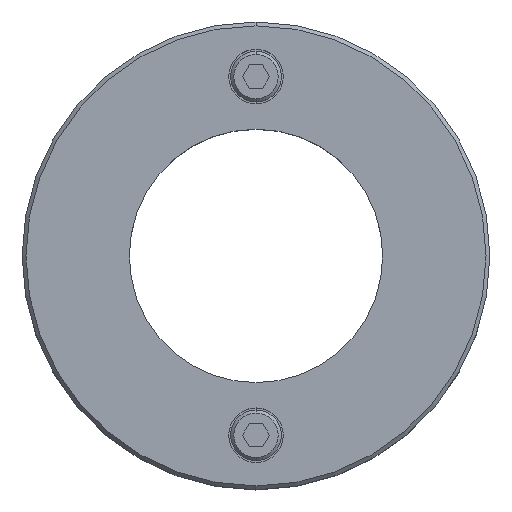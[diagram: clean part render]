
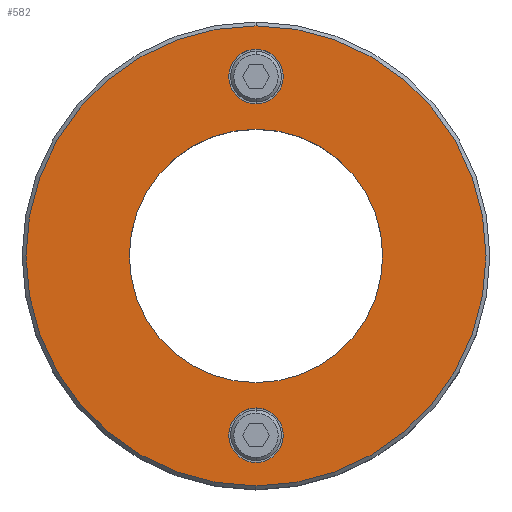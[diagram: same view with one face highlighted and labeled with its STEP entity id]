
A CAD part, top view. The second image highlights one B-rep face of the part: STEP entity #582.
In plain terms, the highlighted planar face has unit normal (0, 0, 1).
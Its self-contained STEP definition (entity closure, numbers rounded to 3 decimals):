
#105=VERTEX_POINT(' ',#106);
#106=CARTESIAN_POINT('',(0.,32.5,35.));
#107=VERTEX_POINT(' ',#108);
#108=CARTESIAN_POINT('',(0.,-32.5,35.));
#117=VERTEX_POINT(' ',#118);
#118=CARTESIAN_POINT('',(0.,53.,35.));
#119=VERTEX_POINT(' ',#120);
#120=CARTESIAN_POINT('',(0.,39.,35.));
#125=VERTEX_POINT(' ',#126);
#126=CARTESIAN_POINT('',(0.,-39.,35.));
#127=VERTEX_POINT(' ',#128);
#128=CARTESIAN_POINT('',(0.,-53.,35.));
#137=VERTEX_POINT(' ',#138);
#138=CARTESIAN_POINT('',(0.,-59.01,35.));
#139=VERTEX_POINT(' ',#140);
#140=CARTESIAN_POINT('',(0.,59.01,35.));
#199=CIRCLE('',#200,32.5);
#200=AXIS2_PLACEMENT_3D('',#201,#202,#203);
#201=CARTESIAN_POINT('',(0.,0.,35.));
#202=DIRECTION('',(0.,0.,-1.));
#203=DIRECTION('',(-1.,0.,0.));
#204=EDGE_CURVE(' ',#105,#107,#199,.T.);
#205=CIRCLE('',#206,32.5);
#206=AXIS2_PLACEMENT_3D('',#207,#208,#209);
#207=CARTESIAN_POINT('',(0.,0.,35.));
#208=DIRECTION('',(0.,0.,-1.));
#209=DIRECTION('',(1.,0.,0.));
#210=EDGE_CURVE(' ',#107,#105,#205,.T.);
#255=CIRCLE('',#256,7.);
#256=AXIS2_PLACEMENT_3D('',#257,#258,#259);
#257=CARTESIAN_POINT('',(0.,46.,35.));
#258=DIRECTION('',(0.,0.,1.));
#259=DIRECTION('',(1.,0.,0.));
#260=EDGE_CURVE(' ',#117,#119,#255,.T.);
#277=CIRCLE('',#278,7.);
#278=AXIS2_PLACEMENT_3D('',#279,#280,#281);
#279=CARTESIAN_POINT('',(0.,46.,35.));
#280=DIRECTION('',(0.,0.,1.));
#281=DIRECTION('',(-1.,0.,0.));
#282=EDGE_CURVE(' ',#119,#117,#277,.T.);
#289=CIRCLE('',#290,7.);
#290=AXIS2_PLACEMENT_3D('',#291,#292,#293);
#291=CARTESIAN_POINT('',(0.,-46.,35.));
#292=DIRECTION('',(0.,0.,1.));
#293=DIRECTION('',(1.,0.,0.));
#294=EDGE_CURVE(' ',#125,#127,#289,.T.);
#311=CIRCLE('',#312,7.);
#312=AXIS2_PLACEMENT_3D('',#313,#314,#315);
#313=CARTESIAN_POINT('',(0.,-46.,35.));
#314=DIRECTION('',(0.,0.,1.));
#315=DIRECTION('',(-1.,0.,0.));
#316=EDGE_CURVE(' ',#127,#125,#311,.T.);
#345=CIRCLE('',#346,59.01);
#346=AXIS2_PLACEMENT_3D('',#347,#348,#349);
#347=CARTESIAN_POINT('',(0.,0.,35.));
#348=DIRECTION('',(0.,0.,1.));
#349=DIRECTION('',(-1.,0.,0.));
#350=EDGE_CURVE(' ',#139,#137,#345,.F.);
#351=CIRCLE('',#352,59.01);
#352=AXIS2_PLACEMENT_3D('',#353,#354,#355);
#353=CARTESIAN_POINT('',(0.,0.,35.));
#354=DIRECTION('',(0.,0.,1.));
#355=DIRECTION('',(1.,0.,0.));
#356=EDGE_CURVE(' ',#137,#139,#351,.F.);
#561=ORIENTED_EDGE('',*,*,#350,.F.);
#562=ORIENTED_EDGE('',*,*,#356,.F.);
#563=EDGE_LOOP('',(#561,#562));
#564=FACE_OUTER_BOUND('',#563,.T.);
#565=ORIENTED_EDGE('',*,*,#316,.F.);
#566=ORIENTED_EDGE('',*,*,#294,.F.);
#567=EDGE_LOOP('',(#565,#566));
#568=FACE_BOUND('',#567,.T.);
#569=ORIENTED_EDGE('',*,*,#282,.F.);
#570=ORIENTED_EDGE('',*,*,#260,.F.);
#571=EDGE_LOOP('',(#569,#570));
#572=FACE_BOUND('',#571,.T.);
#573=ORIENTED_EDGE('',*,*,#204,.T.);
#574=ORIENTED_EDGE('',*,*,#210,.T.);
#575=EDGE_LOOP('',(#573,#574));
#576=FACE_BOUND('',#575,.T.);
#577=PLANE('',#578);
#578=AXIS2_PLACEMENT_3D('',#579,#580,#581);
#579=CARTESIAN_POINT('',(60.,0.,35.));
#580=DIRECTION('',(0.,0.,1.));
#581=DIRECTION('',(0.,1.,0.));
#582=ADVANCED_FACE('',(#564,#568,#572,#576),#577,.T.);
